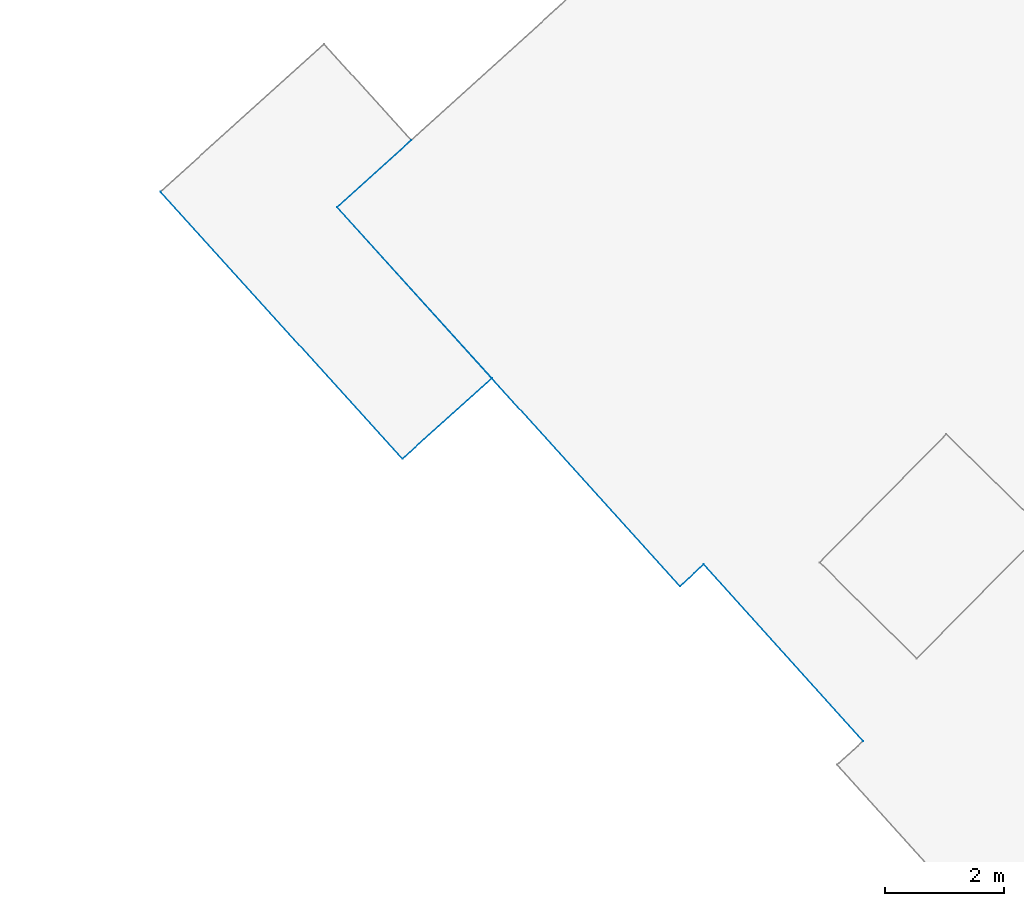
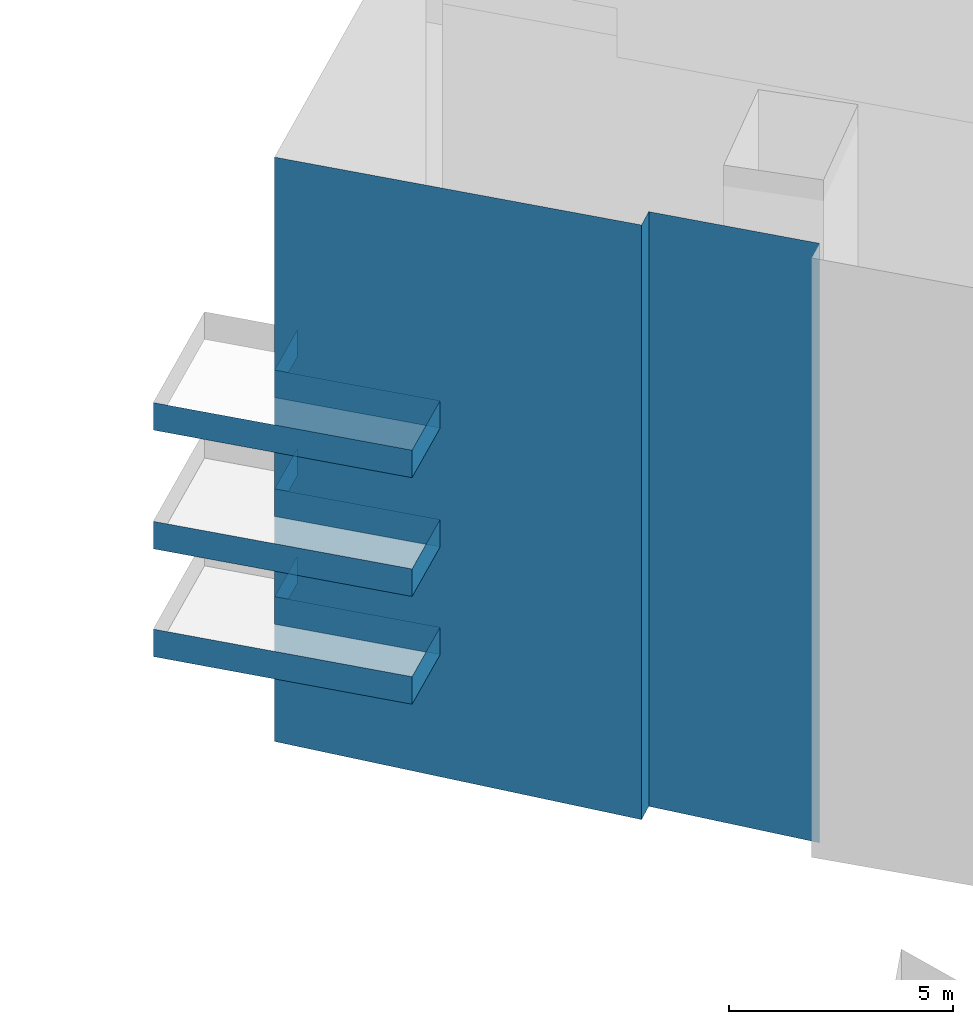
# Not in any storey, part 12 of 136: 27 walls.
"""IFC4 building model written with IfcOpenShell, lengths in metres."""

from ifc_helpers import new_model, entity, si_unit, converted_unit, origin, place, context, subcontext, project, spatial, face_set, surface_model, element, save


model = new_model("IFC4")

# Units and contexts
model_context = context("Model", 3, precision=1e-05, world=origin())
body_context = subcontext(model_context, "Body", "Model", "MODEL_VIEW")
ifc_project = project(units=[converted_unit("PLANEANGLEUNIT", "DEGREE", entity("IfcRatioMeasure", 0.0174532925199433), si_unit("PLANEANGLEUNIT", "RADIAN"), dimensions=[0, 0, 0, 0, 0, 0, 0]), si_unit("AREAUNIT", "SQUARE_METRE"), si_unit("LENGTHUNIT", "METRE")], contexts=[model_context])

# Site, building
site_placement = place(None, origin())
site = spatial("IfcSite", under=ifc_project, at=site_placement, Name="_site")
building_placement = place(site_placement, origin())
building = spatial("IfcBuilding", under=site, at=building_placement, Name="_building")

# Walls
wall_1_placement = place(building_placement, origin())
element("IfcWall", 1, at=wall_1_placement, inside=building, Name="Wall", PredefinedType="NOTDEFINED", context=body_context, shape_type="SurfaceModel", body=[
    surface_model("IfcFaceBasedSurfaceModel", [(63.78, 35.98, 41.65), (59.7, 40.48, 41.65), (59.7, 40.48, 42.4), (63.78, 35.98, 42.4)], [face_set([[[0, 1, 2, 3]]])]),
])
wall_2_placement = place(building_placement, origin())
element("IfcWall", 2, at=wall_2_placement, inside=building, Name="Wall", PredefinedType="NOTDEFINED", context=body_context, shape_type="SurfaceModel", body=[
    surface_model("IfcFaceBasedSurfaceModel", [(65.29, 37.34, 41.65), (63.78, 35.98, 41.65), (63.78, 35.98, 42.4), (65.29, 37.34, 42.4)], [face_set([[[0, 1, 2, 3]]])]),
])
wall_3_placement = place(building_placement, origin())
element("IfcWall", 3, at=wall_3_placement, inside=building, Name="Wall", PredefinedType="NOTDEFINED", context=body_context, shape_type="SurfaceModel", body=[
    surface_model("IfcFaceBasedSurfaceModel", [(62.68, 40.22, 41.65), (65.29, 37.34, 41.65), (65.29, 37.34, 42.4), (62.68, 40.22, 42.4)], [face_set([[[0, 1, 2, 3]]])]),
])
wall_4_placement = place(building_placement, origin())
element("IfcWall", 4, at=wall_4_placement, inside=building, Name="Wall", PredefinedType="NOTDEFINED", context=body_context, shape_type="SurfaceModel", body=[
    surface_model("IfcFaceBasedSurfaceModel", [(63.93, 41.351, 41.65), (62.68, 40.22, 41.65), (62.68, 40.22, 42.4), (63.93, 41.351, 42.4)], [face_set([[[0, 1, 2, 3]]])]),
])
wall_5_placement = place(building_placement, origin())
element("IfcWall", 5, at=wall_5_placement, inside=building, Name="Wall", PredefinedType="NOTDEFINED", context=body_context, shape_type="SurfaceModel", body=[
    surface_model("IfcFaceBasedSurfaceModel", [(63.78, 35.98, 41.65), (59.7, 40.48, 41.65), (59.7, 40.48, 42.4), (63.78, 35.98, 42.4)], [face_set([[[0, 1, 2, 3]]])]),
])
wall_6_placement = place(building_placement, origin())
element("IfcWall", 6, at=wall_6_placement, inside=building, Name="Wall", PredefinedType="NOTDEFINED", context=body_context, shape_type="SurfaceModel", body=[
    surface_model("IfcFaceBasedSurfaceModel", [(65.29, 37.34, 41.65), (63.78, 35.98, 41.65), (63.78, 35.98, 42.4), (65.29, 37.34, 42.4)], [face_set([[[0, 1, 2, 3]]])]),
])
wall_7_placement = place(building_placement, origin())
element("IfcWall", 7, at=wall_7_placement, inside=building, Name="Wall", PredefinedType="NOTDEFINED", context=body_context, shape_type="SurfaceModel", body=[
    surface_model("IfcFaceBasedSurfaceModel", [(62.68, 40.22, 41.65), (65.29, 37.34, 41.65), (65.29, 37.34, 42.4), (62.68, 40.22, 42.4)], [face_set([[[0, 1, 2, 3]]])]),
])
wall_8_placement = place(building_placement, origin())
element("IfcWall", 8, at=wall_8_placement, inside=building, Name="Wall", PredefinedType="NOTDEFINED", context=body_context, shape_type="SurfaceModel", body=[
    surface_model("IfcFaceBasedSurfaceModel", [(63.93, 41.351, 41.65), (62.68, 40.22, 41.65), (62.68, 40.22, 42.4), (63.93, 41.351, 42.4)], [face_set([[[0, 1, 2, 3]]])]),
])
wall_9_placement = place(building_placement, origin())
element("IfcWall", 9, at=wall_9_placement, inside=building, Name="Wall", PredefinedType="NOTDEFINED", context=body_context, shape_type="SurfaceModel", body=[
    surface_model("IfcFaceBasedSurfaceModel", [(63.78, 35.98, 47.83), (59.7, 40.48, 47.83), (59.7, 40.48, 48.58), (63.78, 35.98, 48.58)], [face_set([[[0, 1, 2, 3]]])]),
])
wall_10_placement = place(building_placement, origin())
element("IfcWall", 10, at=wall_10_placement, inside=building, Name="Wall", PredefinedType="NOTDEFINED", context=body_context, shape_type="SurfaceModel", body=[
    surface_model("IfcFaceBasedSurfaceModel", [(65.29, 37.34, 47.83), (63.78, 35.98, 47.83), (63.78, 35.98, 48.58), (65.29, 37.34, 48.58)], [face_set([[[0, 1, 2, 3]]])]),
])
wall_11_placement = place(building_placement, origin())
element("IfcWall", 11, at=wall_11_placement, inside=building, Name="Wall", PredefinedType="NOTDEFINED", context=body_context, shape_type="SurfaceModel", body=[
    surface_model("IfcFaceBasedSurfaceModel", [(62.68, 40.22, 47.83), (65.29, 37.34, 47.83), (65.29, 37.34, 48.58), (62.68, 40.22, 48.58)], [face_set([[[0, 1, 2, 3]]])]),
])
wall_12_placement = place(building_placement, origin())
element("IfcWall", 12, at=wall_12_placement, inside=building, Name="Wall", PredefinedType="NOTDEFINED", context=body_context, shape_type="SurfaceModel", body=[
    surface_model("IfcFaceBasedSurfaceModel", [(63.93, 41.351, 47.83), (62.68, 40.22, 47.83), (62.68, 40.22, 48.58), (63.93, 41.351, 48.58)], [face_set([[[0, 1, 2, 3]]])]),
])
wall_13_placement = place(building_placement, origin())
element("IfcWall", 13, at=wall_13_placement, inside=building, Name="Wall", PredefinedType="NOTDEFINED", context=body_context, shape_type="SurfaceModel", body=[
    surface_model("IfcFaceBasedSurfaceModel", [(63.78, 35.98, 47.83), (59.7, 40.48, 47.83), (59.7, 40.48, 48.58), (63.78, 35.98, 48.58)], [face_set([[[0, 1, 2, 3]]])]),
])
wall_14_placement = place(building_placement, origin())
element("IfcWall", 14, at=wall_14_placement, inside=building, Name="Wall", PredefinedType="NOTDEFINED", context=body_context, shape_type="SurfaceModel", body=[
    surface_model("IfcFaceBasedSurfaceModel", [(65.29, 37.34, 47.83), (63.78, 35.98, 47.83), (63.78, 35.98, 48.58), (65.29, 37.34, 48.58)], [face_set([[[0, 1, 2, 3]]])]),
])
wall_15_placement = place(building_placement, origin())
element("IfcWall", 15, at=wall_15_placement, inside=building, Name="Wall", PredefinedType="NOTDEFINED", context=body_context, shape_type="SurfaceModel", body=[
    surface_model("IfcFaceBasedSurfaceModel", [(62.68, 40.22, 47.83), (65.29, 37.34, 47.83), (65.29, 37.34, 48.58), (62.68, 40.22, 48.58)], [face_set([[[0, 1, 2, 3]]])]),
])
wall_16_placement = place(building_placement, origin())
element("IfcWall", 16, at=wall_16_placement, inside=building, Name="Wall", PredefinedType="NOTDEFINED", context=body_context, shape_type="SurfaceModel", body=[
    surface_model("IfcFaceBasedSurfaceModel", [(63.93, 41.351, 47.83), (62.68, 40.22, 47.83), (62.68, 40.22, 48.58), (63.93, 41.351, 48.58)], [face_set([[[0, 1, 2, 3]]])]),
])
wall_17_placement = place(building_placement, origin())
element("IfcWall", 17, at=wall_17_placement, inside=building, Name="Wall", PredefinedType="NOTDEFINED", context=body_context, shape_type="SurfaceModel", body=[
    surface_model("IfcFaceBasedSurfaceModel", [(63.78, 35.98, 44.59), (59.7, 40.48, 44.59), (59.7, 40.48, 45.34), (63.78, 35.98, 45.34)], [face_set([[[0, 1, 2, 3]]])]),
])
wall_18_placement = place(building_placement, origin())
element("IfcWall", 18, at=wall_18_placement, inside=building, Name="Wall", PredefinedType="NOTDEFINED", context=body_context, shape_type="SurfaceModel", body=[
    surface_model("IfcFaceBasedSurfaceModel", [(65.29, 37.34, 44.59), (63.78, 35.98, 44.59), (63.78, 35.98, 45.34), (65.29, 37.34, 45.34)], [face_set([[[0, 1, 2, 3]]])]),
])
wall_19_placement = place(building_placement, origin())
element("IfcWall", 19, at=wall_19_placement, inside=building, Name="Wall", PredefinedType="NOTDEFINED", context=body_context, shape_type="SurfaceModel", body=[
    surface_model("IfcFaceBasedSurfaceModel", [(62.68, 40.22, 44.59), (65.29, 37.34, 44.59), (65.29, 37.34, 45.34), (62.68, 40.22, 45.34)], [face_set([[[0, 1, 2, 3]]])]),
])
wall_20_placement = place(building_placement, origin())
element("IfcWall", 20, at=wall_20_placement, inside=building, Name="Wall", PredefinedType="NOTDEFINED", context=body_context, shape_type="SurfaceModel", body=[
    surface_model("IfcFaceBasedSurfaceModel", [(63.93, 41.351, 44.59), (62.68, 40.22, 44.59), (62.68, 40.22, 45.34), (63.93, 41.351, 45.34)], [face_set([[[0, 1, 2, 3]]])]),
])
wall_21_placement = place(building_placement, origin())
element("IfcWall", 21, at=wall_21_placement, inside=building, Name="Wall", PredefinedType="NOTDEFINED", context=body_context, shape_type="SurfaceModel", body=[
    surface_model("IfcFaceBasedSurfaceModel", [(63.78, 35.98, 44.59), (59.7, 40.48, 44.59), (59.7, 40.48, 45.34), (63.78, 35.98, 45.34)], [face_set([[[0, 1, 2, 3]]])]),
])
wall_22_placement = place(building_placement, origin())
element("IfcWall", 22, at=wall_22_placement, inside=building, Name="Wall", PredefinedType="NOTDEFINED", context=body_context, shape_type="SurfaceModel", body=[
    surface_model("IfcFaceBasedSurfaceModel", [(65.29, 37.34, 44.59), (63.78, 35.98, 44.59), (63.78, 35.98, 45.34), (65.29, 37.34, 45.34)], [face_set([[[0, 1, 2, 3]]])]),
])
wall_23_placement = place(building_placement, origin())
element("IfcWall", 23, at=wall_23_placement, inside=building, Name="Wall", PredefinedType="NOTDEFINED", context=body_context, shape_type="SurfaceModel", body=[
    surface_model("IfcFaceBasedSurfaceModel", [(62.68, 40.22, 44.59), (65.29, 37.34, 44.59), (65.29, 37.34, 45.34), (62.68, 40.22, 45.34)], [face_set([[[0, 1, 2, 3]]])]),
])
wall_24_placement = place(building_placement, origin())
element("IfcWall", 24, at=wall_24_placement, inside=building, Name="Wall", PredefinedType="NOTDEFINED", context=body_context, shape_type="SurfaceModel", body=[
    surface_model("IfcFaceBasedSurfaceModel", [(63.93, 41.351, 44.59), (62.68, 40.22, 44.59), (62.68, 40.22, 45.34), (63.93, 41.351, 45.34)], [face_set([[[0, 1, 2, 3]]])]),
])
wall_25_placement = place(building_placement, origin())
element("IfcWall", 25, at=wall_25_placement, inside=building, Name="Wall", PredefinedType="NOTDEFINED", context=body_context, shape_type="SurfaceModel", body=[
    surface_model("IfcFaceBasedSurfaceModel", [(68.46, 33.83, 54.39), (62.68, 40.22, 54.39), (62.68, 40.22, 38.448), (68.46, 33.83, 38.167)], [face_set([[[0, 1, 2, 3]]])]),
])
wall_26_placement = place(building_placement, origin())
element("IfcWall", 26, at=wall_26_placement, inside=building, Name="Wall", PredefinedType="NOTDEFINED", context=body_context, shape_type="SurfaceModel", body=[
    surface_model("IfcFaceBasedSurfaceModel", [(68.86, 34.2, 54.39), (68.46, 33.83, 54.39), (68.46, 33.83, 38.167), (68.86, 34.2, 38.166)], [face_set([[[0, 1, 2, 3]]])]),
])
wall_27_placement = place(building_placement, origin())
element("IfcWall", 27, at=wall_27_placement, inside=building, Name="Wall", PredefinedType="NOTDEFINED", context=body_context, shape_type="SurfaceModel", body=[
    surface_model("IfcFaceBasedSurfaceModel", [(71.55, 31.22, 54.39), (68.86, 34.2, 54.39), (68.86, 34.2, 38.166), (71.55, 31.22, 38.035)], [face_set([[[0, 1, 2, 3]]])]),
])

save(model, "model.ifc")
